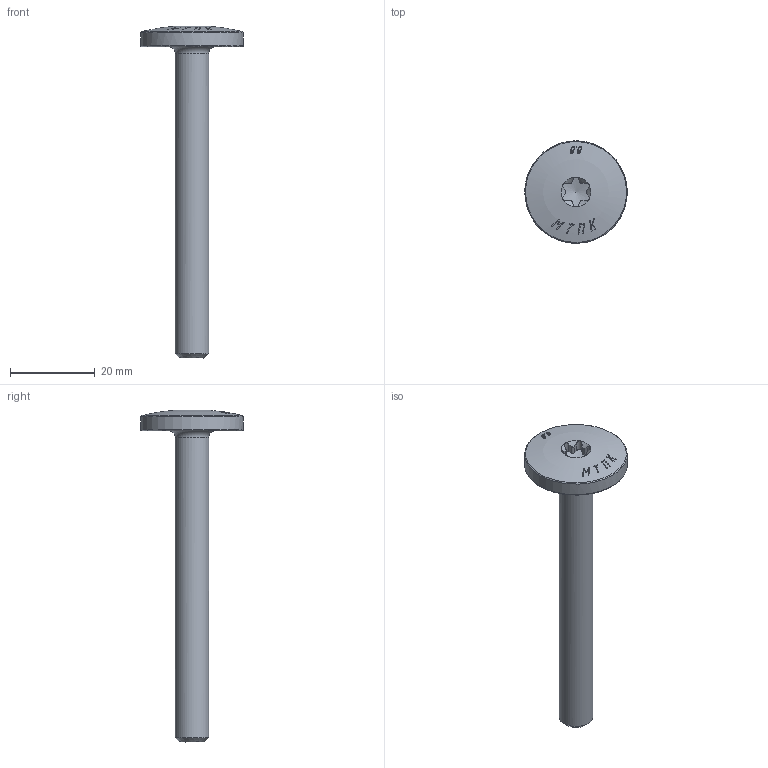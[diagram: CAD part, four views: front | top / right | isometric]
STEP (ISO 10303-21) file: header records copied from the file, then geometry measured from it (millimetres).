
FILE_DESCRIPTION(('STEP AP203'), '1');
FILE_NAME('8450093990-02 Axe Îñü_11.08.2025', '2025-08-11T06:49:10', ('Êîíñòðóêòîð2'), (''), 'C3D Converter', 'C3D Toolkit', '');
FILE_SCHEMA(('CONFIG_CONTROL_DESIGN'));
Length unit declared in the file: millimetre
Products named in the file (1): 8450096402
Bounding box: 24.2 x 24.19 x 78.38 mm (x, y, z)
Surface area: 3070.3 mm2 (no closed solid volume)
Topology: 0 solids, 1 shells, 241 faces, 691 edges, 462 vertices
Faces by surface type: extrusion 126, plane 81, cylinder 14, sphere 9, cone 8, torus 3
Full cylindrical faces by diameter (mm): 8 x1, 24.2 x1
Entity records: 13206 total; most frequent: CARTESIAN_POINT 5532, ORIENTED_EDGE 1360, DIRECTION 808, EDGE_CURVE 680, VERTEX_POINT 460, B_SPLINE_CURVE_WITH_KNOTS 457, VECTOR 374, EDGE_LOOP 260
